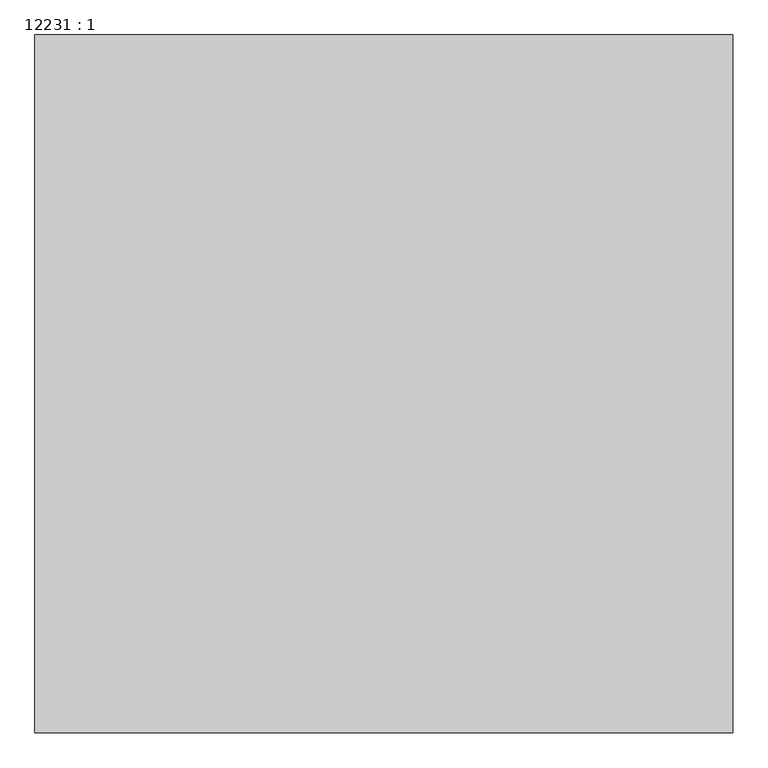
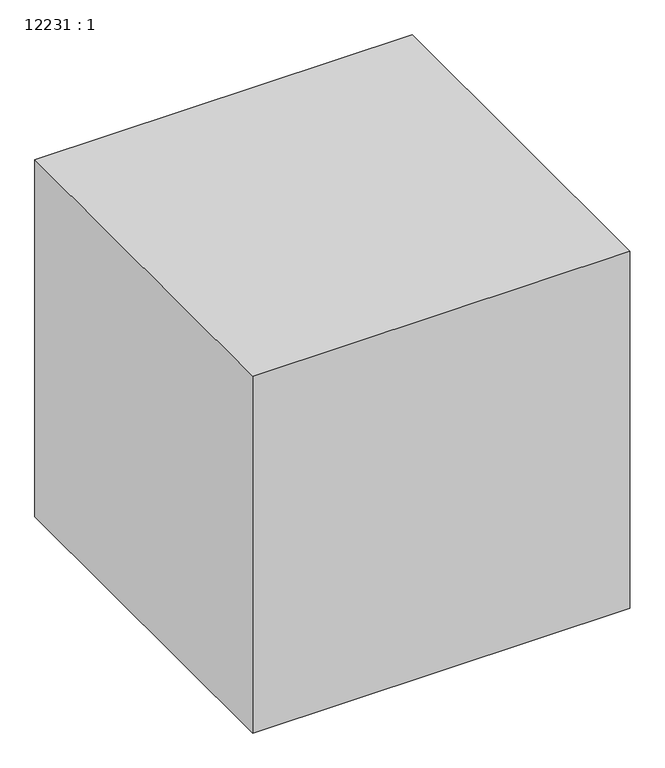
"""IFC4 building model written with IfcOpenShell, lengths in millimetres: proxy geometry, 12231 : 1."""

from ifc_helpers import new_model, si_unit, origin, origin_with_axes, place, context, project, spatial, polyline, outline, extrude, source, transform, mapped, element, save


def proxy_12231_1_e93e3e78(model_context):
    return source(origin(), model_context, "Body", "SweptSolid", [
        extrude(outline(polyline([(-20307.9756708, 3335.2294472), (-20307.9756708, 2335.2294472), (-21307.9756708, 2335.2294472), (-21307.9756708, 3335.2294472), (-20307.9756708, 3335.2294472)])), origin_with_axes(), (0.0, 0.0, 1.0), 1000.0),
    ])


if __name__ == "__main__":
    model = new_model("IFC4")
    model_context = context("Model", 3, world=origin())
    ifc_project = project(units=[si_unit("LENGTHUNIT", "METRE", prefix="MILLI")], contexts=[model_context])
    site = spatial("IfcSite", under=ifc_project)
    building = spatial("IfcBuilding", under=site)
    placement = place(None, origin())
    proxy_12231_1_shape = proxy_12231_1_e93e3e78(model_context)
    element("IfcBuildingElementProxy", 1, Name="12231 : 1", ObjectType="12231 : 1", at=placement, inside=building, context=model_context, shape_type="MappedRepresentation", body=[
        mapped(proxy_12231_1_shape, transform((0.0, 0.0, 0.0), x_axis=(1.0, 0.0, 0.0), y_axis=(0.0, 1.0, 0.0), z_axis=(0.0, 0.0, 1.0))),
    ])
    save(model, "model.ifc")
